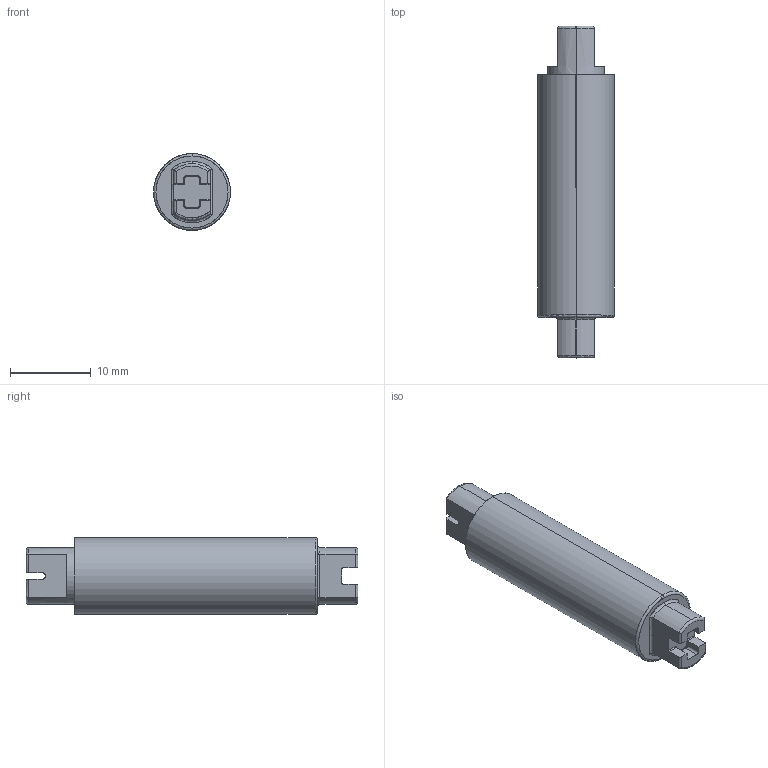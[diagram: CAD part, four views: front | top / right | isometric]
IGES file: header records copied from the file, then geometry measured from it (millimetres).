
Start section: SolidWorks IGES file using analytic representation for surfaces
Global section: file name: C:\3D-DATA\型式\R\【提出用】\IGS\FRT-S1.IGS; native system: SolidWorks 2014; preprocessor: SolidWorks 2014; author: flgijutsu; date: 140516.191902; units: millimetre
Bounding box: 9.5 x 41 x 9.5 mm (x, y, z)
Surface area: 1285.8 mm2 (no closed solid volume)
Topology: 0 solids, 0 shells, 72 faces, 655 edges, 655 vertices
Faces by surface type: bspline 40, revolution 32
